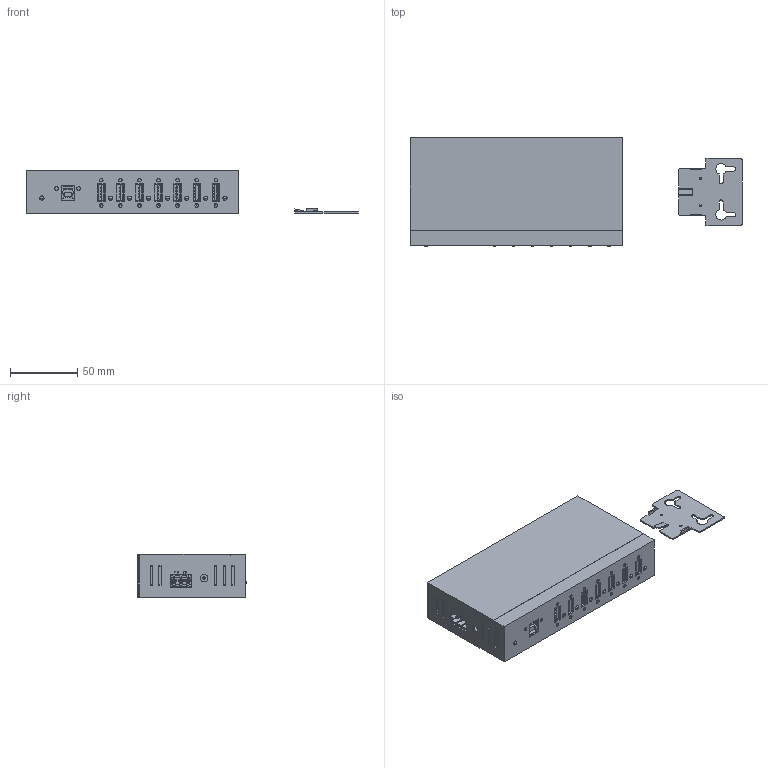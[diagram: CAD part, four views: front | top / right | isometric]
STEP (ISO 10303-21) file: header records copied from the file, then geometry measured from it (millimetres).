
FILE_DESCRIPTION(('FreeCAD Model'),'2;1');
FILE_NAME('Open CASCADE Shape Model','2022-09-02T12:17:37',(''),(''), 'Open CASCADE STEP processor 7.6','FreeCAD','Unknown');
FILE_SCHEMA(('AUTOMOTIVE_DESIGN { 1 0 10303 214 1 1 1 1 }'));
Length unit declared in the file: millimetre
Products named in the file (3): _1217HMVS_3D; EX-11227HMVS_3D; Wallmount_Kit_11227HMVS
Assembly tree (2 placements, depth 2):
  _1217HMVS_3D
    EX-11227HMVS_3D
    Wallmount_Kit_11227HMVS
Bounding box: 247.05 x 80.9 x 32.7 mm (x, y, z)
Volume: 73886.6 mm3; surface area: 125863.3 mm2
Topology: 22 solids, 22 shells, 5143 faces, 15169 edges, 10148 vertices
Faces by surface type: plane 4301, cylinder 657, cone 88, torus 55, sphere 42
Full cylindrical faces by diameter (mm): 0.4 x16, 0.7 x16, 1.5 x3, 1.567 x4, 2 x5, 2.459 x2, 2.6 x14, 2.65 x2, 2.75 x3, 2.8 x10, 3 x4, 3.2 x8, 3.4 x8, 3.6 x8, 4 x4, 5.2 x4, 5.5 x2, 5.8 x1, 6.5 x1, 8.1 x4
Entity records: 437553 total; most frequent: CARTESIAN_POINT 108021, DIRECTION 52572, LINE 36710, VECTOR 36710, ORIENTED_EDGE 30260, PCURVE 30254, DEFINITIONAL_REPRESENTATION 30254, EDGE_CURVE 15127
